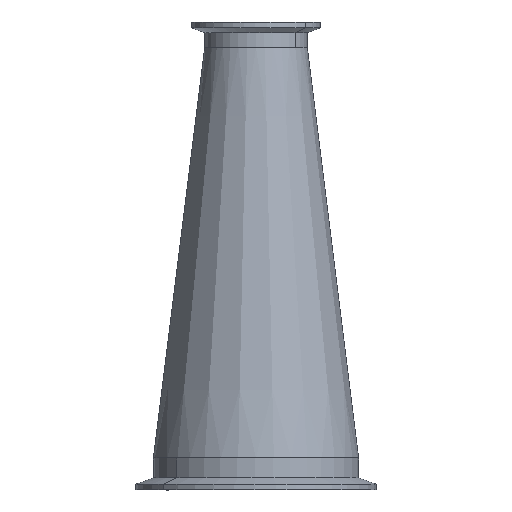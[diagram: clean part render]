
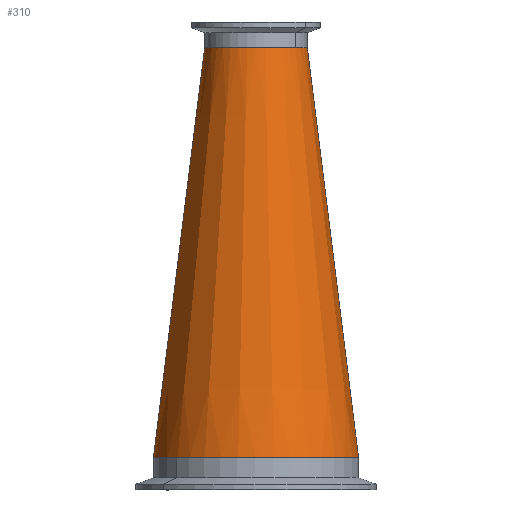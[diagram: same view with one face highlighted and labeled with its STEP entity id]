
A CAD part, front view. The second image highlights one B-rep face of the part: STEP entity #310.
In plain terms, the highlighted conical face has half-angle 7.125 degrees and reference radius 50.8 mm.
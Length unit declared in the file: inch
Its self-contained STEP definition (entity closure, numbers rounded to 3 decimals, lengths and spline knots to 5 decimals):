
#124 = ORIENTED_EDGE ( 'NONE', *, *, #1323, .T. ) ;
#144 = ORIENTED_EDGE ( 'NONE', *, *, #720, .F. ) ;
#197 = VERTEX_POINT ( 'NONE', #1583 ) ;
#203 = VERTEX_POINT ( 'NONE', #959 ) ;
#228 = VERTEX_POINT ( 'NONE', #691 ) ;
#241 = CARTESIAN_POINT ( 'NONE',  ( 0., 0., 0. ) ) ;
#310 = ADVANCED_FACE ( 'NONE', ( #773 ), #1514, .T. ) ;
#373 = DIRECTION ( 'NONE',  ( 1., 0., 0. ) ) ;
#441 = EDGE_CURVE ( 'NONE', #705, #203, #568, .T. ) ;
#451 = CARTESIAN_POINT ( 'NONE',  ( 2., 0., -8. ) ) ;
#453 = DIRECTION ( 'NONE',  ( -0.124, 0., -0.992 ) ) ;
#469 = DIRECTION ( 'NONE',  ( 0., 0., -1. ) ) ;
#494 = AXIS2_PLACEMENT_3D ( 'NONE', #1199, #469, #1101 ) ;
#568 = LINE ( 'NONE', #1078, #1541 ) ;
#572 = LINE ( 'NONE', #451, #1600 ) ;
#578 = AXIS2_PLACEMENT_3D ( 'NONE', #840, #640, #373 ) ;
#584 = DIRECTION ( 'NONE',  ( 0.124, 0., -0.992 ) ) ;
#640 = DIRECTION ( 'NONE',  ( 0., 0., 1. ) ) ;
#691 = CARTESIAN_POINT ( 'NONE',  ( 2., 0., -8. ) ) ;
#705 = VERTEX_POINT ( 'NONE', #1123 ) ;
#720 = EDGE_CURVE ( 'NONE', #705, #197, #1397, .T. ) ;
#773 = FACE_OUTER_BOUND ( 'NONE', #1248, .T. ) ;
#840 = CARTESIAN_POINT ( 'NONE',  ( 0., 0., -8. ) ) ;
#959 = CARTESIAN_POINT ( 'NONE',  ( -2., 0., -8. ) ) ;
#986 = DIRECTION ( 'NONE',  ( 1., 0., 0. ) ) ;
#1033 = AXIS2_PLACEMENT_3D ( 'NONE', #241, #1259, #986 ) ;
#1078 = CARTESIAN_POINT ( 'NONE',  ( -2., 0., -8. ) ) ;
#1079 = EDGE_CURVE ( 'NONE', #197, #228, #572, .T. ) ;
#1101 = DIRECTION ( 'NONE',  ( -1., 0., 0. ) ) ;
#1123 = CARTESIAN_POINT ( 'NONE',  ( -1., 0., 0. ) ) ;
#1172 = ORIENTED_EDGE ( 'NONE', *, *, #1079, .F. ) ;
#1199 = CARTESIAN_POINT ( 'NONE',  ( 0., 0., -8. ) ) ;
#1226 = CIRCLE ( 'NONE', #578, 2. ) ;
#1248 = EDGE_LOOP ( 'NONE', ( #1172, #144, #1477, #124 ) ) ;
#1259 = DIRECTION ( 'NONE',  ( 0., 0., 1. ) ) ;
#1323 = EDGE_CURVE ( 'NONE', #203, #228, #1226, .T. ) ;
#1397 = CIRCLE ( 'NONE', #1033, 1. ) ;
#1477 = ORIENTED_EDGE ( 'NONE', *, *, #441, .T. ) ;
#1514 = CONICAL_SURFACE ( 'NONE', #494, 2., 0.124 ) ;
#1541 = VECTOR ( 'NONE', #453, 39.37008 ) ;
#1583 = CARTESIAN_POINT ( 'NONE',  ( 1., 0., 0. ) ) ;
#1600 = VECTOR ( 'NONE', #584, 39.37008 ) ;
